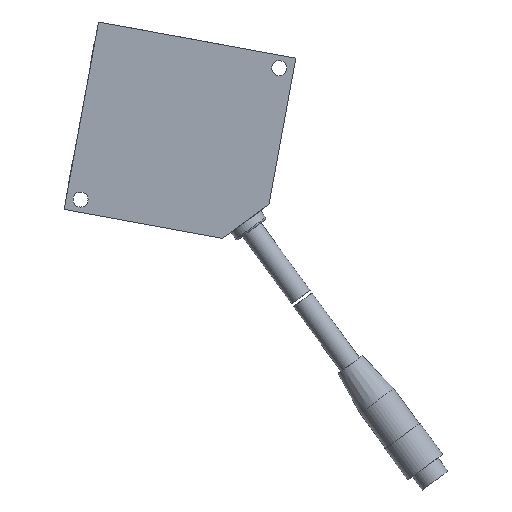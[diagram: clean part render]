
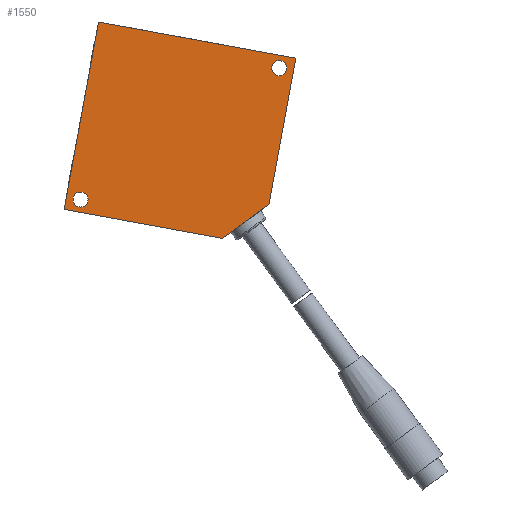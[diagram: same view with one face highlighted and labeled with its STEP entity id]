
A CAD part, left-side view. The second image highlights one B-rep face of the part: STEP entity #1550.
In plain terms, the highlighted planar face has unit normal (-1, 0, 0).
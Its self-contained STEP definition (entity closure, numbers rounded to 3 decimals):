
#31 = CARTESIAN_POINT ( 'NONE',  ( -10.2, -38.693, -52.351 ) ) ;
#334 = CARTESIAN_POINT ( 'NONE',  ( -10.2, 12.295, 2.254 ) ) ;
#335 = DIRECTION ( 'NONE',  ( 0., -0.984, -0.18 ) ) ;
#340 = LINE ( 'NONE', #334, #487 ) ;
#344 = CARTESIAN_POINT ( 'NONE',  ( -10.2, -46.721, -8.567 ) ) ;
#487 = VECTOR ( 'NONE', #335, 1000. ) ;
#591 = CARTESIAN_POINT ( 'NONE',  ( -10.2, -24.805, -62.498 ) ) ;
#695 = DIRECTION ( 'NONE',  ( 0., 0.984, 0.18 ) ) ;
#696 = VECTOR ( 'NONE', #695, 1000. ) ;
#697 = CARTESIAN_POINT ( 'NONE',  ( -10.2, 22.575, -53.811 ) ) ;
#698 = LINE ( 'NONE', #697, #696 ) ;
#699 = DIRECTION ( 'NONE',  ( 0., 0.18, -0.984 ) ) ;
#700 = VECTOR ( 'NONE', #699, 1000. ) ;
#701 = CARTESIAN_POINT ( 'NONE',  ( -10.2, -46.721, -8.567 ) ) ;
#722 = LINE ( 'NONE', #701, #700 ) ;
#734 = DIRECTION ( 'NONE',  ( 0., -0.807, 0.59 ) ) ;
#735 = VECTOR ( 'NONE', #734, 1000. ) ;
#742 = CARTESIAN_POINT ( 'NONE',  ( -10.2, -24.805, -62.498 ) ) ;
#743 = LINE ( 'NONE', #742, #735 ) ;
#1193 = PLANE ( 'NONE',  #1232 ) ;
#1194 = FACE_BOUND ( 'NONE', #1551, .T. ) ;
#1196 = DIRECTION ( 'NONE',  ( 0., 0.18, -0.984 ) ) ;
#1197 = DIRECTION ( 'NONE',  ( 1., 0., 0. ) ) ;
#1198 = CARTESIAN_POINT ( 'NONE',  ( -10.2, -41.806, -11.529 ) ) ;
#1199 = AXIS2_PLACEMENT_3D ( 'NONE', #1198, #1197, #1196 ) ;
#1204 = CIRCLE ( 'NONE', #1199, 2.25 ) ;
#1209 = CARTESIAN_POINT ( 'NONE',  ( -10.2, -46.721, -8.567 ) ) ;
#1210 = FACE_OUTER_BOUND ( 'NONE', #1537, .T. ) ;
#1232 = AXIS2_PLACEMENT_3D ( 'NONE', #1209, #1341, #1340 ) ;
#1284 = CARTESIAN_POINT ( 'NONE',  ( -10.2, 22.575, -53.811 ) ) ;
#1334 = DIRECTION ( 'NONE',  ( 0., 0.18, -0.984 ) ) ;
#1335 = DIRECTION ( 'NONE',  ( 1., 0., 0. ) ) ;
#1336 = CARTESIAN_POINT ( 'NONE',  ( -10.2, 17.66, -50.849 ) ) ;
#1337 = AXIS2_PLACEMENT_3D ( 'NONE', #1336, #1335, #1334 ) ;
#1340 = DIRECTION ( 'NONE',  ( 0., 0.18, -0.984 ) ) ;
#1341 = DIRECTION ( 'NONE',  ( 1., 0., 0. ) ) ;
#1342 = CIRCLE ( 'NONE', #1337, 2.25 ) ;
#1345 = FACE_BOUND ( 'NONE', #1555, .T. ) ;
#1420 = VERTEX_POINT ( 'NONE', #2325 ) ;
#1421 = VERTEX_POINT ( 'NONE', #2320 ) ;
#1426 = EDGE_CURVE ( 'NONE', #1420, #1421, #2380, .T. ) ;
#1427 = EDGE_CURVE ( 'NONE', #1448, #1439, #2376, .T. ) ;
#1439 = VERTEX_POINT ( 'NONE', #2352 ) ;
#1448 = VERTEX_POINT ( 'NONE', #2389 ) ;
#1461 = VERTEX_POINT ( 'NONE', #2408 ) ;
#1462 = EDGE_CURVE ( 'NONE', #1481, #1461, #2400, .T. ) ;
#1481 = VERTEX_POINT ( 'NONE', #1284 ) ;
#1537 = EDGE_LOOP ( 'NONE', ( #1542, #1539, #1544, #1545, #1541 ) ) ;
#1539 = ORIENTED_EDGE ( 'NONE', *, *, #1972, .T. ) ;
#1541 = ORIENTED_EDGE ( 'NONE', *, *, #1462, .F. ) ;
#1542 = ORIENTED_EDGE ( 'NONE', *, *, #1990, .F. ) ;
#1543 = ORIENTED_EDGE ( 'NONE', *, *, #1426, .T. ) ;
#1544 = ORIENTED_EDGE ( 'NONE', *, *, #1988, .F. ) ;
#1545 = ORIENTED_EDGE ( 'NONE', *, *, #1931, .F. ) ;
#1546 = EDGE_CURVE ( 'NONE', #1421, #1420, #1204, .T. ) ;
#1548 = ORIENTED_EDGE ( 'NONE', *, *, #1427, .T. ) ;
#1549 = ORIENTED_EDGE ( 'NONE', *, *, #1552, .T. ) ;
#1550 = ADVANCED_FACE ( 'NONE', ( #1194, #1345, #1210 ), #1193, .F. ) ;
#1551 = EDGE_LOOP ( 'NONE', ( #1549, #1548 ) ) ;
#1552 = EDGE_CURVE ( 'NONE', #1439, #1448, #1342, .T. ) ;
#1555 = EDGE_LOOP ( 'NONE', ( #1562, #1543 ) ) ;
#1562 = ORIENTED_EDGE ( 'NONE', *, *, #1546, .T. ) ;
#1628 = VERTEX_POINT ( 'NONE', #31 ) ;
#1931 = EDGE_CURVE ( 'NONE', #1461, #1932, #340, .T. ) ;
#1932 = VERTEX_POINT ( 'NONE', #344 ) ;
#1956 = VERTEX_POINT ( 'NONE', #591 ) ;
#1972 = EDGE_CURVE ( 'NONE', #1956, #1628, #743, .T. ) ;
#1988 = EDGE_CURVE ( 'NONE', #1932, #1628, #722, .T. ) ;
#1990 = EDGE_CURVE ( 'NONE', #1956, #1481, #698, .T. ) ;
#2314 = CARTESIAN_POINT ( 'NONE',  ( -10.2, -41.806, -11.529 ) ) ;
#2320 = CARTESIAN_POINT ( 'NONE',  ( -10.2, -41.401, -13.742 ) ) ;
#2325 = CARTESIAN_POINT ( 'NONE',  ( -10.2, -42.212, -9.316 ) ) ;
#2340 = DIRECTION ( 'NONE',  ( 0., 0.18, -0.984 ) ) ;
#2345 = DIRECTION ( 'NONE',  ( 0., 0.18, -0.984 ) ) ;
#2352 = CARTESIAN_POINT ( 'NONE',  ( -10.2, 18.066, -53.062 ) ) ;
#2368 = DIRECTION ( 'NONE',  ( 1., 0., 0. ) ) ;
#2369 = CARTESIAN_POINT ( 'NONE',  ( -10.2, 17.66, -50.849 ) ) ;
#2371 = AXIS2_PLACEMENT_3D ( 'NONE', #2369, #2368, #2340 ) ;
#2373 = AXIS2_PLACEMENT_3D ( 'NONE', #2314, #2375, #2345 ) ;
#2375 = DIRECTION ( 'NONE',  ( 1., 0., 0. ) ) ;
#2376 = CIRCLE ( 'NONE', #2371, 2.25 ) ;
#2380 = CIRCLE ( 'NONE', #2373, 2.25 ) ;
#2385 = VECTOR ( 'NONE', #2387, 1000. ) ;
#2387 = DIRECTION ( 'NONE',  ( 0., -0.18, 0.984 ) ) ;
#2389 = CARTESIAN_POINT ( 'NONE',  ( -10.2, 17.254, -48.636 ) ) ;
#2399 = CARTESIAN_POINT ( 'NONE',  ( -10.2, 12.295, 2.254 ) ) ;
#2400 = LINE ( 'NONE', #2399, #2385 ) ;
#2408 = CARTESIAN_POINT ( 'NONE',  ( -10.2, 12.295, 2.254 ) ) ;
